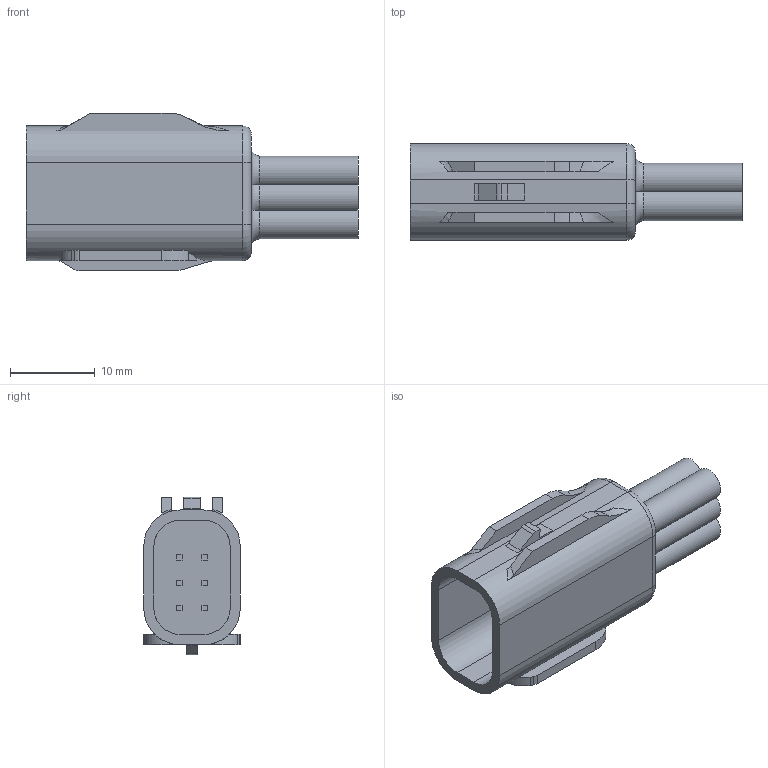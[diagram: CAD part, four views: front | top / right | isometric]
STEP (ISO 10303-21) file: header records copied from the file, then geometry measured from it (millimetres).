
FILE_DESCRIPTION(('CATIA V5 STEP Exchange'),'2;1');
FILE_NAME('N:\C-DAM_MyDesk\ENV\11093U\1設\6188-0706.stp','2013-02-28T02:58:07+00:00',('none'),('none'),'CATIA Version 5 Release 20 SP 4 (IN-10)','CATIA V5 STEP AP203','none');
FILE_SCHEMA(('CONFIG_CONTROL_DESIGN'));
Length unit declared in the file: millimetre
Products named in the file (1): 6188-0706
Bounding box: 39.2 x 11.4 x 18.6 mm (x, y, z)
Volume: 3319.4 mm3; surface area: 2967.1 mm2
Topology: 1 solids, 1 shells, 138 faces, 356 edges, 238 vertices
Faces by surface type: plane 80, cylinder 44, torus 10, bspline 4
Entity records: 4336 total; most frequent: CARTESIAN_POINT 1103, ORIENTED_EDGE 712, DIRECTION 534, EDGE_CURVE 356, VERTEX_POINT 238, AXIS2_PLACEMENT_3D 214, VECTOR 214, LINE 214
